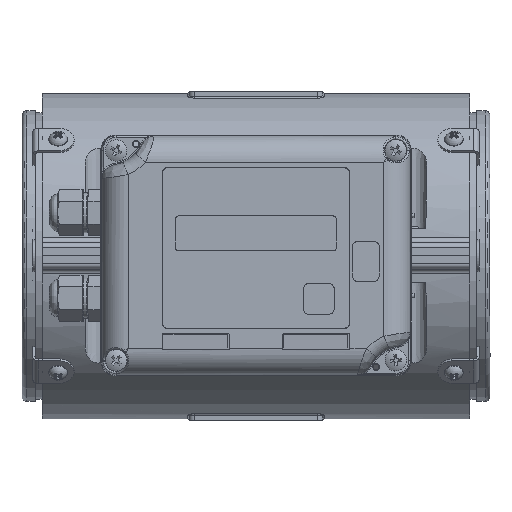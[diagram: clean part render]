
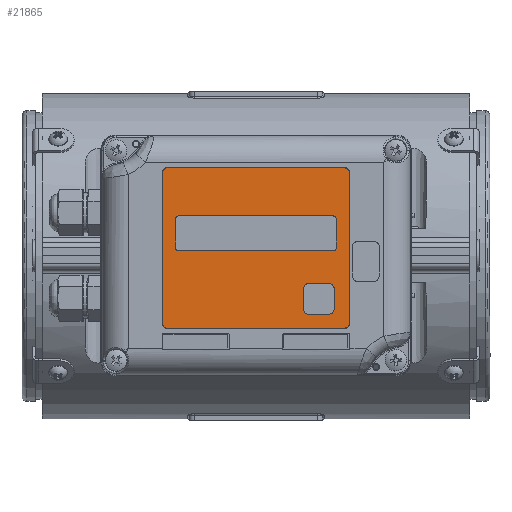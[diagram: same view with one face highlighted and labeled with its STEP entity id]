
A CAD part, top view. The second image highlights one B-rep face of the part: STEP entity #21865.
In plain terms, the highlighted planar face has unit normal (0, 0, 1).
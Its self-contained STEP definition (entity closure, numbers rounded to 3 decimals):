
#21865=ADVANCED_FACE('',(#50773,#50775,#50777),#50779,.T.);
#50773=FACE_BOUND('',#50774,.T.);
#50774=EDGE_LOOP('',(#61271,#61272,#61273,#61274,#61275,#61276,#61277,#61278));
#50775=FACE_BOUND('',#50776,.T.);
#50776=EDGE_LOOP('',(#61279,#61280,#61281,#61282,#61283,#61284,#61285,#61286));
#50777=FACE_BOUND('',#50778,.T.);
#50778=EDGE_LOOP('',(#61287,#61288,#61289,#61290,#61291,#61292,#61293,#61294));
#50779=PLANE('',#50780);
#50780=AXIS2_PLACEMENT_3D('',#50781,#50782,#50783);
#50781=CARTESIAN_POINT('',(-0.041,2.709,112.3));
#50782=DIRECTION('',(0.,0.,1.));
#50783=DIRECTION('',(-1.,0.,0.));
#61271=ORIENTED_EDGE('',*,*,#66598,.F.);
#61272=ORIENTED_EDGE('',*,*,#66599,.T.);
#61273=ORIENTED_EDGE('',*,*,#66600,.F.);
#61274=ORIENTED_EDGE('',*,*,#66601,.T.);
#61275=ORIENTED_EDGE('',*,*,#66602,.F.);
#61276=ORIENTED_EDGE('',*,*,#66603,.T.);
#61277=ORIENTED_EDGE('',*,*,#66604,.F.);
#61278=ORIENTED_EDGE('',*,*,#66605,.T.);
#61279=ORIENTED_EDGE('',*,*,#66606,.F.);
#61280=ORIENTED_EDGE('',*,*,#66607,.T.);
#61281=ORIENTED_EDGE('',*,*,#66608,.F.);
#61282=ORIENTED_EDGE('',*,*,#66609,.T.);
#61283=ORIENTED_EDGE('',*,*,#66610,.F.);
#61284=ORIENTED_EDGE('',*,*,#66611,.T.);
#61285=ORIENTED_EDGE('',*,*,#66612,.F.);
#61286=ORIENTED_EDGE('',*,*,#66613,.T.);
#61287=ORIENTED_EDGE('',*,*,#66614,.F.);
#61288=ORIENTED_EDGE('',*,*,#66615,.T.);
#61289=ORIENTED_EDGE('',*,*,#66616,.F.);
#61290=ORIENTED_EDGE('',*,*,#66617,.T.);
#61291=ORIENTED_EDGE('',*,*,#66618,.F.);
#61292=ORIENTED_EDGE('',*,*,#66619,.T.);
#61293=ORIENTED_EDGE('',*,*,#66620,.F.);
#61294=ORIENTED_EDGE('',*,*,#66621,.T.);
#66598=EDGE_CURVE('',#75142,#75143,#75144,.F.);
#66599=EDGE_CURVE('',#75142,#75145,#75146,.T.);
#66600=EDGE_CURVE('',#75147,#75145,#75148,.F.);
#66601=EDGE_CURVE('',#75147,#75149,#75150,.T.);
#66602=EDGE_CURVE('',#75151,#75149,#75152,.F.);
#66603=EDGE_CURVE('',#75151,#75153,#75154,.T.);
#66604=EDGE_CURVE('',#75155,#75153,#75156,.F.);
#66605=EDGE_CURVE('',#75155,#75143,#75157,.T.);
#66606=EDGE_CURVE('',#75158,#75159,#75160,.F.);
#66607=EDGE_CURVE('',#75158,#75161,#75162,.F.);
#66608=EDGE_CURVE('',#75163,#75161,#75164,.F.);
#66609=EDGE_CURVE('',#75163,#75165,#75166,.F.);
#66610=EDGE_CURVE('',#75167,#75165,#75168,.F.);
#66611=EDGE_CURVE('',#75167,#75169,#75170,.F.);
#66612=EDGE_CURVE('',#75171,#75169,#75172,.F.);
#66613=EDGE_CURVE('',#75171,#75159,#75173,.F.);
#66614=EDGE_CURVE('',#75174,#75175,#75176,.F.);
#66615=EDGE_CURVE('',#75174,#75177,#75178,.F.);
#66616=EDGE_CURVE('',#75179,#75177,#75180,.F.);
#66617=EDGE_CURVE('',#75179,#75181,#75182,.F.);
#66618=EDGE_CURVE('',#75183,#75181,#75184,.F.);
#66619=EDGE_CURVE('',#75183,#75185,#75186,.F.);
#66620=EDGE_CURVE('',#75187,#75185,#75188,.F.);
#66621=EDGE_CURVE('',#75187,#75175,#75189,.F.);
#75142=VERTEX_POINT('',#148348);
#75143=VERTEX_POINT('',#148349);
#75144=CIRCLE('',#148350,2.);
#75145=VERTEX_POINT('',#148354);
#75146=LINE('',#148355,#148356);
#75147=VERTEX_POINT('',#148358);
#75148=CIRCLE('',#148359,2.);
#75149=VERTEX_POINT('',#148363);
#75150=LINE('',#148364,#148365);
#75151=VERTEX_POINT('',#148367);
#75152=CIRCLE('',#148368,2.);
#75153=VERTEX_POINT('',#148372);
#75154=LINE('',#148373,#148374);
#75155=VERTEX_POINT('',#148376);
#75156=CIRCLE('',#148377,2.);
#75157=LINE('',#148381,#148382);
#75158=VERTEX_POINT('',#148384);
#75159=VERTEX_POINT('',#148385);
#75160=CIRCLE('',#148386,2.);
#75161=VERTEX_POINT('',#148390);
#75162=LINE('',#148391,#148392);
#75163=VERTEX_POINT('',#148394);
#75164=CIRCLE('',#148395,2.);
#75165=VERTEX_POINT('',#148399);
#75166=LINE('',#148400,#148401);
#75167=VERTEX_POINT('',#148403);
#75168=CIRCLE('',#148404,2.);
#75169=VERTEX_POINT('',#148408);
#75170=LINE('',#148409,#148410);
#75171=VERTEX_POINT('',#148412);
#75172=CIRCLE('',#148413,2.);
#75173=LINE('',#148417,#148418);
#75174=VERTEX_POINT('',#148420);
#75175=VERTEX_POINT('',#148421);
#75176=CIRCLE('',#148422,1.);
#75177=VERTEX_POINT('',#148426);
#75178=LINE('',#148427,#148428);
#75179=VERTEX_POINT('',#148430);
#75180=CIRCLE('',#148431,1.);
#75181=VERTEX_POINT('',#148435);
#75182=LINE('',#148436,#148437);
#75183=VERTEX_POINT('',#148439);
#75184=CIRCLE('',#148440,1.);
#75185=VERTEX_POINT('',#148444);
#75186=LINE('',#148445,#148446);
#75187=VERTEX_POINT('',#148448);
#75188=CIRCLE('',#148449,1.);
#75189=LINE('',#148453,#148454);
#148348=CARTESIAN_POINT('',(-33.041,-27.291,112.3));
#148349=CARTESIAN_POINT('',(-35.041,-25.291,112.3));
#148350=AXIS2_PLACEMENT_3D('',#148351,#148352,#148353);
#148351=CARTESIAN_POINT('',(-33.041,-25.291,112.3));
#148352=DIRECTION('',(0.,0.,1.));
#148353=DIRECTION('',(-1.,0.,0.));
#148354=CARTESIAN_POINT('',(32.959,-27.291,112.3));
#148355=CARTESIAN_POINT('',(-33.041,-27.291,112.3));
#148356=VECTOR('',#148357,1.);
#148357=DIRECTION('',(1.,0.,0.));
#148358=CARTESIAN_POINT('',(34.959,-25.291,112.3));
#148359=AXIS2_PLACEMENT_3D('',#148360,#148361,#148362);
#148360=CARTESIAN_POINT('',(32.959,-25.291,112.3));
#148361=DIRECTION('',(0.,0.,1.));
#148362=DIRECTION('',(0.,-1.,0.));
#148363=CARTESIAN_POINT('',(34.959,30.709,112.3));
#148364=CARTESIAN_POINT('',(34.959,-25.291,112.3));
#148365=VECTOR('',#148366,1.);
#148366=DIRECTION('',(0.,1.,0.));
#148367=CARTESIAN_POINT('',(32.959,32.709,112.3));
#148368=AXIS2_PLACEMENT_3D('',#148369,#148370,#148371);
#148369=CARTESIAN_POINT('',(32.959,30.709,112.3));
#148370=DIRECTION('',(0.,0.,1.));
#148371=DIRECTION('',(1.,0.,0.));
#148372=CARTESIAN_POINT('',(-33.041,32.709,112.3));
#148373=CARTESIAN_POINT('',(32.959,32.709,112.3));
#148374=VECTOR('',#148375,1.);
#148375=DIRECTION('',(-1.,0.,0.));
#148376=CARTESIAN_POINT('',(-35.041,30.709,112.3));
#148377=AXIS2_PLACEMENT_3D('',#148378,#148379,#148380);
#148378=CARTESIAN_POINT('',(-33.041,30.709,112.3));
#148379=DIRECTION('',(0.,0.,1.));
#148380=DIRECTION('',(0.,1.,0.));
#148381=CARTESIAN_POINT('',(-35.041,30.709,112.3));
#148382=VECTOR('',#148383,1.);
#148383=DIRECTION('',(0.,-1.,0.));
#148384=CARTESIAN_POINT('',(19.709,-10.541,112.3));
#148385=CARTESIAN_POINT('',(17.709,-12.541,112.3));
#148386=AXIS2_PLACEMENT_3D('',#148387,#148388,#148389);
#148387=CARTESIAN_POINT('',(19.709,-12.541,112.3));
#148388=DIRECTION('',(-0.,0.,-1.));
#148389=DIRECTION('',(-1.,0.,0.));
#148390=CARTESIAN_POINT('',(27.209,-10.541,112.3));
#148391=CARTESIAN_POINT('',(27.209,-10.541,112.3));
#148392=VECTOR('',#148393,1.);
#148393=DIRECTION('',(-1.,0.,0.));
#148394=CARTESIAN_POINT('',(29.209,-12.541,112.3));
#148395=AXIS2_PLACEMENT_3D('',#148396,#148397,#148398);
#148396=CARTESIAN_POINT('',(27.209,-12.541,112.3));
#148397=DIRECTION('',(0.,-0.,-1.));
#148398=DIRECTION('',(0.,1.,0.));
#148399=CARTESIAN_POINT('',(29.209,-20.041,112.3));
#148400=CARTESIAN_POINT('',(29.209,-20.041,112.3));
#148401=VECTOR('',#148402,1.);
#148402=DIRECTION('',(0.,1.,0.));
#148403=CARTESIAN_POINT('',(27.209,-22.041,112.3));
#148404=AXIS2_PLACEMENT_3D('',#148405,#148406,#148407);
#148405=CARTESIAN_POINT('',(27.209,-20.041,112.3));
#148406=DIRECTION('',(0.,-0.,-1.));
#148407=DIRECTION('',(1.,0.,0.));
#148408=CARTESIAN_POINT('',(19.709,-22.041,112.3));
#148409=CARTESIAN_POINT('',(19.709,-22.041,112.3));
#148410=VECTOR('',#148411,1.);
#148411=DIRECTION('',(1.,0.,0.));
#148412=CARTESIAN_POINT('',(17.709,-20.041,112.3));
#148413=AXIS2_PLACEMENT_3D('',#148414,#148415,#148416);
#148414=CARTESIAN_POINT('',(19.709,-20.041,112.3));
#148415=DIRECTION('',(-0.,0.,-1.));
#148416=DIRECTION('',(0.,-1.,0.));
#148417=CARTESIAN_POINT('',(17.709,-12.541,112.3));
#148418=VECTOR('',#148419,1.);
#148419=DIRECTION('',(0.,-1.,0.));
#148420=CARTESIAN_POINT('',(-29.041,14.709,112.3));
#148421=CARTESIAN_POINT('',(-30.041,13.709,112.3));
#148422=AXIS2_PLACEMENT_3D('',#148423,#148424,#148425);
#148423=CARTESIAN_POINT('',(-29.041,13.709,112.3));
#148424=DIRECTION('',(0.,-0.,-1.));
#148425=DIRECTION('',(-1.,0.,0.));
#148426=CARTESIAN_POINT('',(28.959,14.709,112.3));
#148427=CARTESIAN_POINT('',(28.959,14.709,112.3));
#148428=VECTOR('',#148429,1.);
#148429=DIRECTION('',(-1.,0.,0.));
#148430=CARTESIAN_POINT('',(29.959,13.709,112.3));
#148431=AXIS2_PLACEMENT_3D('',#148432,#148433,#148434);
#148432=CARTESIAN_POINT('',(28.959,13.709,112.3));
#148433=DIRECTION('',(0.,-0.,-1.));
#148434=DIRECTION('',(0.,1.,0.));
#148435=CARTESIAN_POINT('',(29.959,2.709,112.3));
#148436=CARTESIAN_POINT('',(29.959,2.709,112.3));
#148437=VECTOR('',#148438,1.);
#148438=DIRECTION('',(0.,1.,0.));
#148439=CARTESIAN_POINT('',(28.959,1.709,112.3));
#148440=AXIS2_PLACEMENT_3D('',#148441,#148442,#148443);
#148441=CARTESIAN_POINT('',(28.959,2.709,112.3));
#148442=DIRECTION('',(0.,-0.,-1.));
#148443=DIRECTION('',(1.,0.,0.));
#148444=CARTESIAN_POINT('',(-29.041,1.709,112.3));
#148445=CARTESIAN_POINT('',(-29.041,1.709,112.3));
#148446=VECTOR('',#148447,1.);
#148447=DIRECTION('',(1.,0.,0.));
#148448=CARTESIAN_POINT('',(-30.041,2.709,112.3));
#148449=AXIS2_PLACEMENT_3D('',#148450,#148451,#148452);
#148450=CARTESIAN_POINT('',(-29.041,2.709,112.3));
#148451=DIRECTION('',(-0.,0.,-1.));
#148452=DIRECTION('',(0.,-1.,0.));
#148453=CARTESIAN_POINT('',(-30.041,13.709,112.3));
#148454=VECTOR('',#148455,1.);
#148455=DIRECTION('',(0.,-1.,0.));
